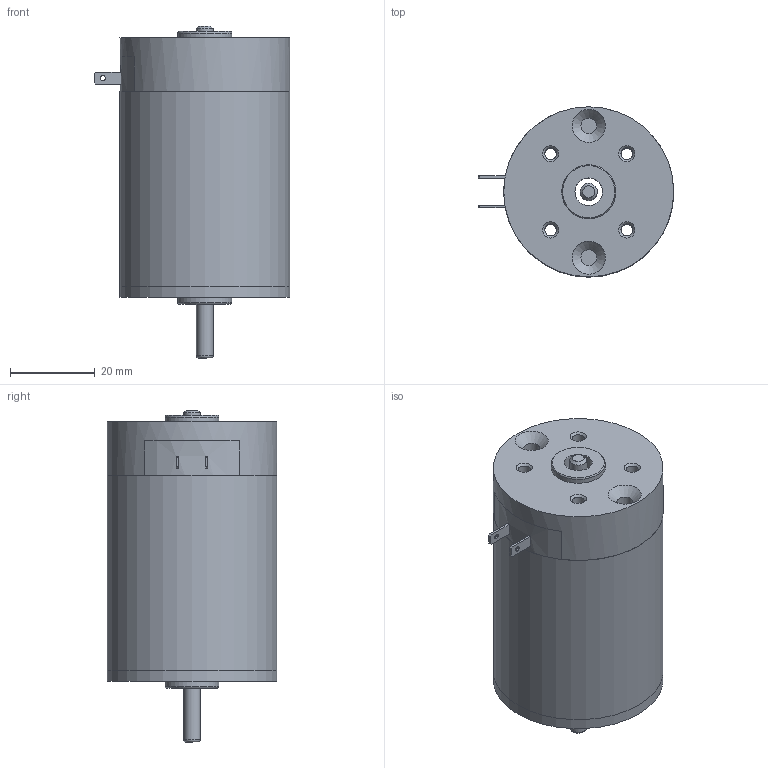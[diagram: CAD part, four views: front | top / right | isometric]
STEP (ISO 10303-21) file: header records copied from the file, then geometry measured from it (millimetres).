
FILE_DESCRIPTION(/* description */ (''),/* implementation_level */ '2;1');
FILE_NAME(/* name */ 'Z:\새 폴더\Compact Type RM4_3D\RM44ㅁBT.stp',/* time_stamp */ '2022-04-05T16:17:19+09:00',/* author */ ('umbro'),/* organization */ (''),/* preprocessor_version */ 'ST-DEVELOPER v17',/* originating_system */ 'Autodesk Inventor 2019',/* authorisation */ '');
FILE_SCHEMA (('AUTOMOTIVE_DESIGN { 1 0 10303 214 3 1 1 }'));
Length unit declared in the file: millimetre
Products named in the file (7): RM44ㅁBT; REAR_HOUSING__ASS'Y_TERMINAL; RM4TYPE_BRUSH_BRAKET_TERMINAL; RM4TYPE_REAR_HOUSING; RM4TYPE_FRONT_HOUSING_; RM44TYPE_SHAFT; RM4TYPE_PIPE_HOUSING_pi40XL45.9
Assembly tree (5 placements, depth 2):
  RM44ㅁBT
    RM4TYPE_FRONT_HOUSING_
    RM44TYPE_SHAFT
    RM4TYPE_PIPE_HOUSING_pi40XL45.9
  REAR_HOUSING__ASS'Y_TERMINAL
    RM4TYPE_BRUSH_BRAKET_TERMINAL
    RM4TYPE_REAR_HOUSING
Bounding box: 46 x 40 x 78.14 mm (x, y, z)
Volume: 21795 mm3; surface area: 21124.9 mm2
Topology: 5 solids, 5 shells, 76 faces, 177 edges, 116 vertices
Faces by surface type: plane 37, cylinder 24, cone 12, torus 3
Full cylindrical faces by diameter (mm): 1.2 x2, 2.7 x4, 2.8 x4, 3.7 x2, 3.969 x1, 4 x1, 6.5 x1, 6.65 x1, 12.7 x2, 36.5 x1, 40 x3
Entity records: 2566 total; most frequent: DIRECTION 436, CARTESIAN_POINT 382, ORIENTED_EDGE 354, EDGE_CURVE 177, AXIS2_PLACEMENT_3D 170, VERTEX_POINT 116, EDGE_LOOP 111, LINE 96
